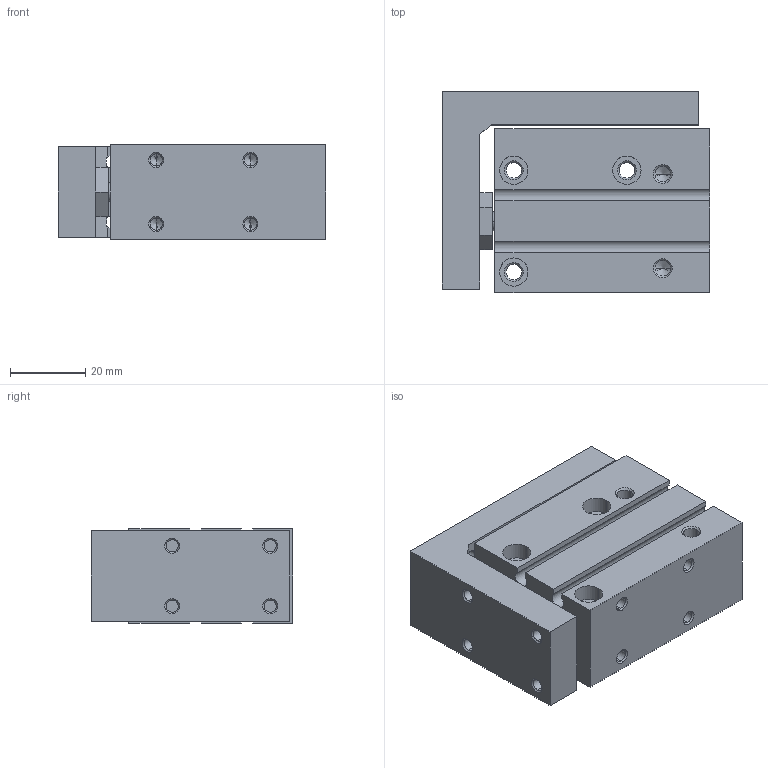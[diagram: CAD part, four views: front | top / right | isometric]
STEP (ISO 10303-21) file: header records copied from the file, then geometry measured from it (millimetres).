
FILE_DESCRIPTION (( 'STEP AP203' ), '1' );
FILE_NAME ('CXH16-15.STEP', '2020-04-16T18:10:39', ( '' ), ( '' ), 'SwSTEP 2.0', 'SolidWorks 2019', '' );
FILE_SCHEMA (( 'CONFIG_CONTROL_DESIGN' ));
Length unit declared in the file: millimetre
Products named in the file (1): CXH16-15
Bounding box: 71 x 53.5 x 25 mm (x, y, z)
Volume: 77731.1 mm3; surface area: 26100.5 mm2
Topology: 2 solids, 2 shells, 208 faces, 495 edges, 286 vertices
Faces by surface type: cone 88, cylinder 76, plane 44
Entity records: 5928 total; most frequent: DIRECTION 1093, CARTESIAN_POINT 1004, ORIENTED_EDGE 934, EDGE_CURVE 467, AXIS2_PLACEMENT_3D 421, VERTEX_POINT 286, EDGE_LOOP 253, LINE 251
